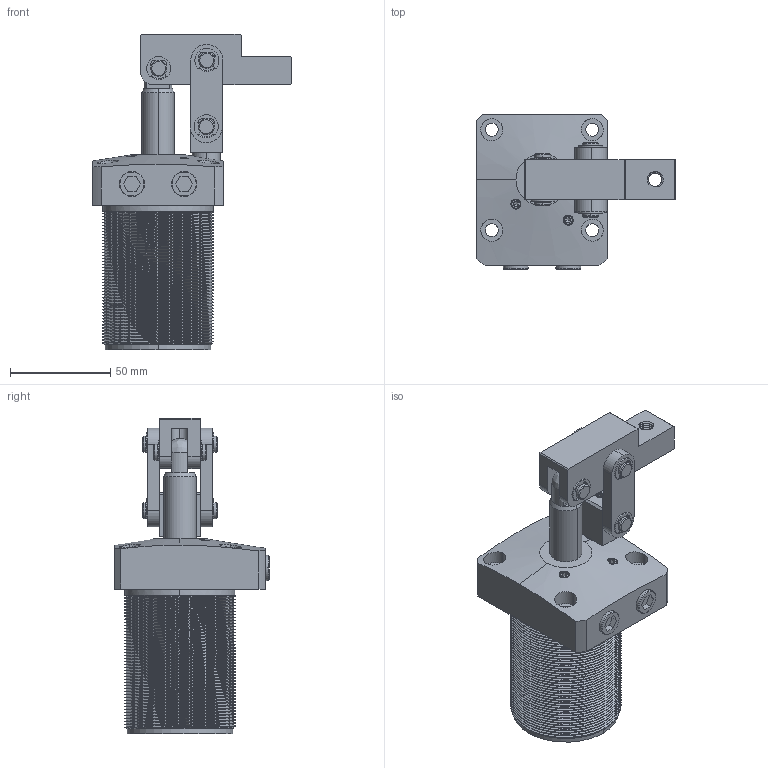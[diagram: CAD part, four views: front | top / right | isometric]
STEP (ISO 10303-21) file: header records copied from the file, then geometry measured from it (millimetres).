
FILE_DESCRIPTION (( 'STEP AP214' ), '1' );
FILE_NAME ('LHC01D-40R.STEP', '2019-04-19T12:32:58', ( '' ), ( '' ), 'SwSTEP 2.0', 'SolidWorks 2016', '' );
FILE_SCHEMA (( 'AUTOMOTIVE_DESIGN' ));
Length unit declared in the file: millimetre
Products named in the file (13): 12_4; 11_4; 10_4; 9_4; 8_4; 7_4; 6_4; 4_40; 040R掛极; LHC01D-40R; LHC01D40活塞杆; 黑芛_9; 5_4
Assembly tree (27 placements, depth 2):
  LHC01D-40R
    040R掛极
    4_40
    6_4
    7_4  x2
    8_4
    9_4  x6
    10_4  x6
    11_4  x2
    12_4  x2
    5_4  x2
    黑芛_9  x2
    LHC01D40活塞杆
Bounding box: 98.81 x 77 x 157 mm (x, y, z)
Volume: 280853.3 mm3; surface area: 84459.1 mm2
Topology: 27 solids, 28 shells, 1552 faces, 3659 edges, 2185 vertices
Faces by surface type: cylinder 685, cone 685, plane 177, torus 4, bspline 1
Entity records: 71764 total; most frequent: CARTESIAN_POINT 43422, ORIENTED_EDGE 6300, DIRECTION 4774, EDGE_CURVE 3150, VERTEX_POINT 1859, AXIS2_PLACEMENT_3D 1764, B_SPLINE_CURVE_WITH_KNOTS 1510, EDGE_LOOP 1407
